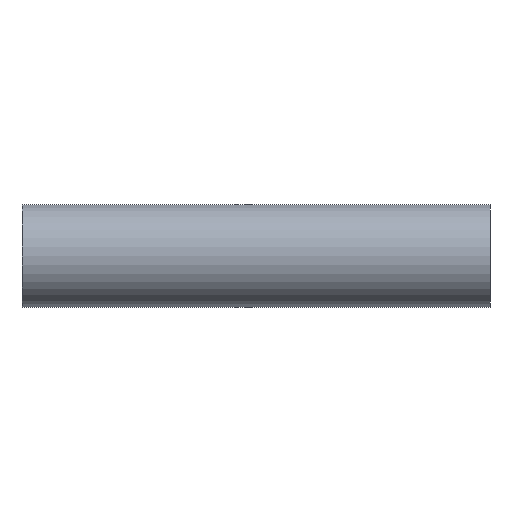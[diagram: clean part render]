
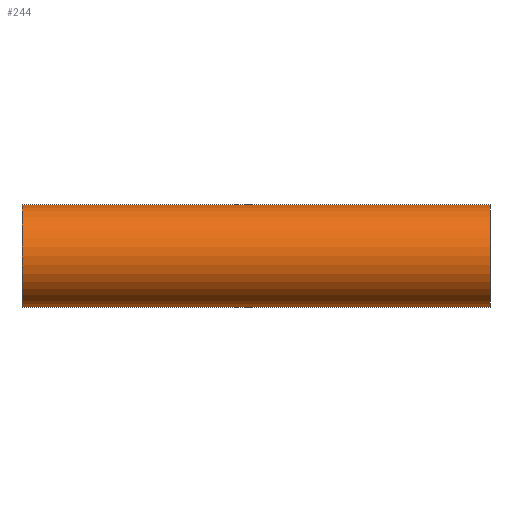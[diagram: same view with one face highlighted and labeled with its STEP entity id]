
A CAD part, front view. The second image highlights one B-rep face of the part: STEP entity #244.
In plain terms, the highlighted cylindrical face has radius 11 mm (diameter 22 mm), a partial arc.
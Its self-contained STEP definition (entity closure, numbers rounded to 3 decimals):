
#4 = VERTEX_POINT ( 'NONE', #203 ) ;
#17 = VERTEX_POINT ( 'NONE', #215 ) ;
#24 = VERTEX_POINT ( 'NONE', #190 ) ;
#31 = ORIENTED_EDGE ( 'NONE', *, *, #140, .T. ) ;
#37 = CIRCLE ( 'NONE', #147, 11. ) ;
#45 = CYLINDRICAL_SURFACE ( 'NONE', #128, 11. ) ;
#49 = EDGE_LOOP ( 'NONE', ( #61, #79, #51, #31 ) ) ;
#51 = ORIENTED_EDGE ( 'NONE', *, *, #136, .T. ) ;
#56 = LINE ( 'NONE', #187, #83 ) ;
#59 = LINE ( 'NONE', #196, #89 ) ;
#61 = ORIENTED_EDGE ( 'NONE', *, *, #143, .F. ) ;
#77 = FACE_OUTER_BOUND ( 'NONE', #49, .T. ) ;
#79 = ORIENTED_EDGE ( 'NONE', *, *, #148, .F. ) ;
#83 = VECTOR ( 'NONE', #217, 1000. ) ;
#87 = CIRCLE ( 'NONE', #135, 11. ) ;
#89 = VECTOR ( 'NONE', #175, 1000. ) ;
#98 = VERTEX_POINT ( 'NONE', #198 ) ;
#128 = AXIS2_PLACEMENT_3D ( 'NONE', #159, #163, #166 ) ;
#135 = AXIS2_PLACEMENT_3D ( 'NONE', #206, #232, #227 ) ;
#136 = EDGE_CURVE ( 'NONE', #4, #98, #56, .T. ) ;
#140 = EDGE_CURVE ( 'NONE', #98, #24, #37, .T. ) ;
#143 = EDGE_CURVE ( 'NONE', #17, #24, #59, .T. ) ;
#147 = AXIS2_PLACEMENT_3D ( 'NONE', #239, #210, #218 ) ;
#148 = EDGE_CURVE ( 'NONE', #4, #17, #87, .T. ) ;
#159 = CARTESIAN_POINT ( 'NONE',  ( 50., 0., 0. ) ) ;
#163 = DIRECTION ( 'NONE',  ( -1., 0., 0. ) ) ;
#166 = DIRECTION ( 'NONE',  ( 0., 0., 1. ) ) ;
#175 = DIRECTION ( 'NONE',  ( -1., 0., 0. ) ) ;
#187 = CARTESIAN_POINT ( 'NONE',  ( 50., 0., 11. ) ) ;
#190 = CARTESIAN_POINT ( 'NONE',  ( -50., 0., -11. ) ) ;
#196 = CARTESIAN_POINT ( 'NONE',  ( 50., 0., -11. ) ) ;
#198 = CARTESIAN_POINT ( 'NONE',  ( -50., 0., 11. ) ) ;
#203 = CARTESIAN_POINT ( 'NONE',  ( 50., 0., 11. ) ) ;
#206 = CARTESIAN_POINT ( 'NONE',  ( 50., 0., 0. ) ) ;
#210 = DIRECTION ( 'NONE',  ( 1., 0., 0. ) ) ;
#215 = CARTESIAN_POINT ( 'NONE',  ( 50., 0., -11. ) ) ;
#217 = DIRECTION ( 'NONE',  ( -1., 0., 0. ) ) ;
#218 = DIRECTION ( 'NONE',  ( 0., 0., -1. ) ) ;
#227 = DIRECTION ( 'NONE',  ( 0., 0., -1. ) ) ;
#232 = DIRECTION ( 'NONE',  ( 1., 0., 0. ) ) ;
#239 = CARTESIAN_POINT ( 'NONE',  ( -50., 0., 0. ) ) ;
#244 = ADVANCED_FACE ( 'NONE', ( #77 ), #45, .T. ) ;
